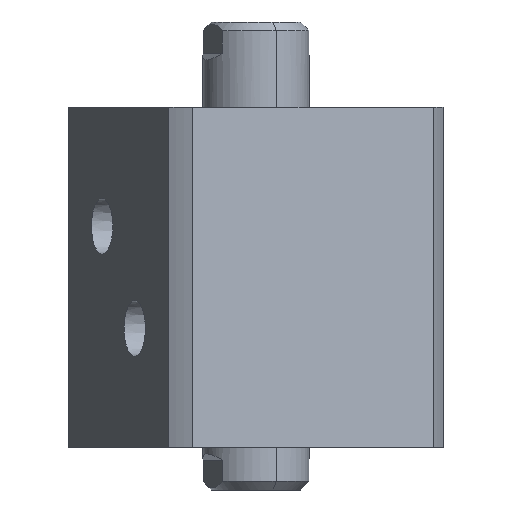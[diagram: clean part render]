
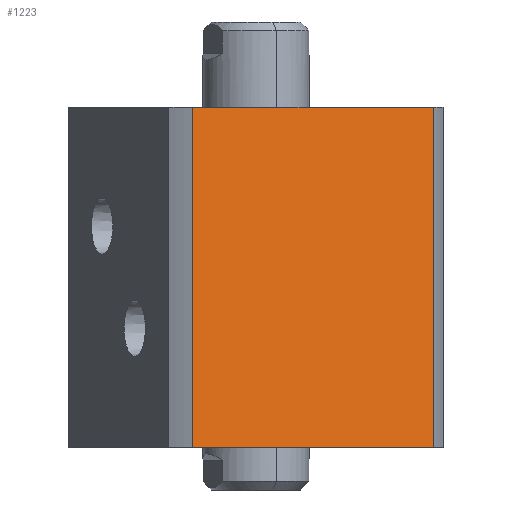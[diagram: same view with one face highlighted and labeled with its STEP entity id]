
A CAD part, front view. The second image highlights one B-rep face of the part: STEP entity #1223.
In plain terms, the highlighted planar face has unit normal (0.383, -0.924, 0) as drawn and (1, 0, 0) by its records, which use the part's own axes.
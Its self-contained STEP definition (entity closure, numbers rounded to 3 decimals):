
#107 = EDGE_CURVE ( 'NONE', #2879, #8754, #7012, .T. ) ;
#267 = LINE ( 'NONE', #9924, #2095 ) ;
#329 = DIRECTION ( 'NONE',  ( 0., 0., -1. ) ) ;
#404 = AXIS2_PLACEMENT_3D ( 'NONE', #9971, #6870, #1633 ) ;
#1223 = ADVANCED_FACE ( 'NONE', ( #4910 ), #9242, .F. ) ;
#1633 = DIRECTION ( 'NONE',  ( 0., -1., 0. ) ) ;
#1947 = LINE ( 'NONE', #6450, #3828 ) ;
#2095 = VECTOR ( 'NONE', #329, 1000. ) ;
#2625 = CARTESIAN_POINT ( 'NONE',  ( 35., 35., 80. ) ) ;
#2879 = VERTEX_POINT ( 'NONE', #4773 ) ;
#3740 = LINE ( 'NONE', #2625, #5850 ) ;
#3828 = VECTOR ( 'NONE', #6487, 1000. ) ;
#4305 = DIRECTION ( 'NONE',  ( 0., 0., 1. ) ) ;
#4333 = ORIENTED_EDGE ( 'NONE', *, *, #107, .F. ) ;
#4431 = ORIENTED_EDGE ( 'NONE', *, *, #9957, .F. ) ;
#4632 = VERTEX_POINT ( 'NONE', #9149 ) ;
#4773 = CARTESIAN_POINT ( 'NONE',  ( 35., -30.615, 0. ) ) ;
#4910 = FACE_OUTER_BOUND ( 'NONE', #7282, .T. ) ;
#4919 = VECTOR ( 'NONE', #4305, 1000. ) ;
#5850 = VECTOR ( 'NONE', #7395, 1000. ) ;
#5926 = CARTESIAN_POINT ( 'NONE',  ( 35., -30.615, -220. ) ) ;
#6293 = EDGE_CURVE ( 'NONE', #2879, #8249, #1947, .T. ) ;
#6449 = ORIENTED_EDGE ( 'NONE', *, *, #6293, .T. ) ;
#6450 = CARTESIAN_POINT ( 'NONE',  ( 35., 35., 0. ) ) ;
#6487 = DIRECTION ( 'NONE',  ( 0., 1., 0. ) ) ;
#6870 = DIRECTION ( 'NONE',  ( -1., 0., 0. ) ) ;
#7012 = LINE ( 'NONE', #5926, #4919 ) ;
#7282 = EDGE_LOOP ( 'NONE', ( #4333, #6449, #4431, #8728 ) ) ;
#7395 = DIRECTION ( 'NONE',  ( 0., 1., 0. ) ) ;
#8012 = EDGE_CURVE ( 'NONE', #8754, #4632, #3740, .T. ) ;
#8249 = VERTEX_POINT ( 'NONE', #10139 ) ;
#8728 = ORIENTED_EDGE ( 'NONE', *, *, #8012, .F. ) ;
#8754 = VERTEX_POINT ( 'NONE', #9790 ) ;
#9149 = CARTESIAN_POINT ( 'NONE',  ( 35., 30.615, 80. ) ) ;
#9242 = PLANE ( 'NONE',  #404 ) ;
#9790 = CARTESIAN_POINT ( 'NONE',  ( 35., -30.615, 80. ) ) ;
#9924 = CARTESIAN_POINT ( 'NONE',  ( 35., 30.615, -220. ) ) ;
#9957 = EDGE_CURVE ( 'NONE', #4632, #8249, #267, .T. ) ;
#9971 = CARTESIAN_POINT ( 'NONE',  ( 35., 35., 80. ) ) ;
#10139 = CARTESIAN_POINT ( 'NONE',  ( 35., 30.615, 0. ) ) ;
